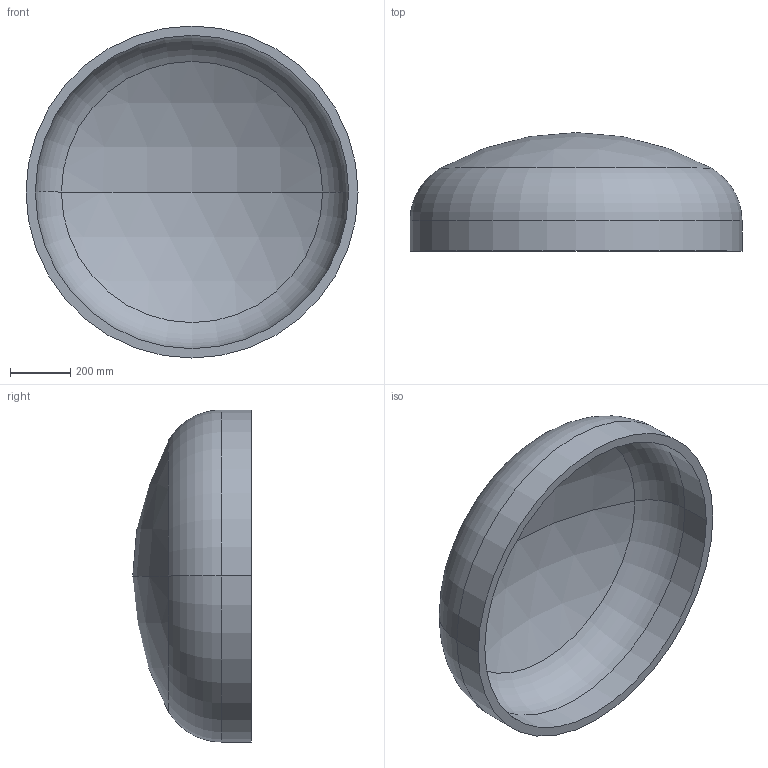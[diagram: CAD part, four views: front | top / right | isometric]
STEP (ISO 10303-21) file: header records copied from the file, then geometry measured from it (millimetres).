
FILE_DESCRIPTION (( 'STEP AP203' ), '1' );
FILE_NAME ('DIN 28013 Korbbogenform_-_Boden DIN 28013 - 1100 x 100 - I - s=31.step', '2016-07-01T09:05:29', ( '' ), ( '' ), 'SwSTEP 2.0', 'SolidWorks 2013', '' );
FILE_SCHEMA (( 'CONFIG_CONTROL_DESIGN' ));
Length unit declared in the file: millimetre
Products named in the file (1): DIN 28013 Korbbogenform_-_Boden DIN 28013 - 1100 x 100 - I - s=31
Bounding box: 1100 x 392.7 x 1100 mm (x, y, z)
Volume: 49763897.7 mm3; surface area: 3316695.1 mm2
Topology: 1 solids, 1 shells, 13 faces, 24 edges, 14 vertices
Faces by surface type: torus 4, cylinder 4, sphere 4, plane 1
Entity records: 407 total; most frequent: DIRECTION 72, CARTESIAN_POINT 52, ORIENTED_EDGE 48, AXIS2_PLACEMENT_3D 34, EDGE_CURVE 24, CIRCLE 20, EDGE_LOOP 14, VERTEX_POINT 14
